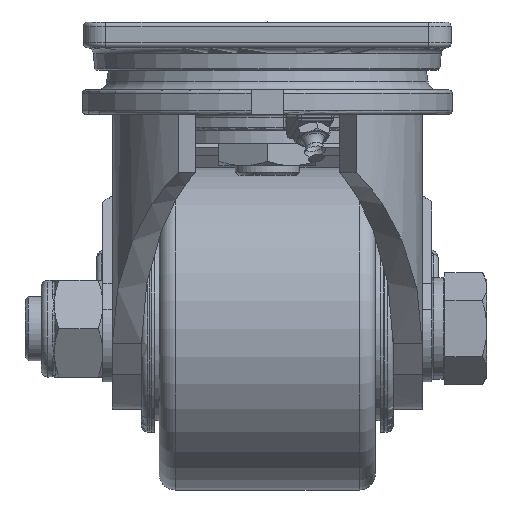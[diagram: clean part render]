
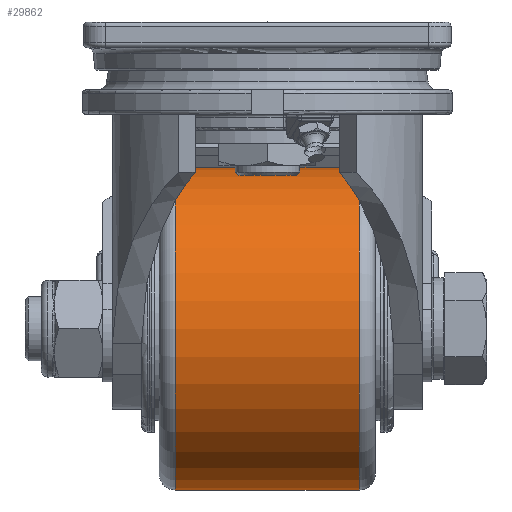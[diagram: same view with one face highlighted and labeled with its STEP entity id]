
A CAD part, left-side view. The second image highlights one B-rep face of the part: STEP entity #29862.
In plain terms, the highlighted cylindrical face has radius 50 mm (diameter 100 mm), a full revolution.
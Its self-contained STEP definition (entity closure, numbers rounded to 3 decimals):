
#2630=LINE('',#42541,#4909);
#4909=VECTOR('',#34640,50.);
#7127=CYLINDRICAL_SURFACE('',#31762,50.);
#7618=FACE_OUTER_BOUND('',#9439,.T.);
#9439=EDGE_LOOP('',(#20546,#20547,#20548,#20549,#20550,#20551));
#11398=CIRCLE('',#31758,50.);
#11399=CIRCLE('',#31759,50.);
#11402=CIRCLE('',#31763,50.);
#11403=CIRCLE('',#31764,50.);
#12712=VERTEX_POINT('',#42529);
#12713=VERTEX_POINT('',#42530);
#12715=VERTEX_POINT('',#42537);
#12716=VERTEX_POINT('',#42538);
#15748=EDGE_CURVE('',#12712,#12713,#11398,.T.);
#15749=EDGE_CURVE('',#12713,#12712,#11399,.T.);
#15752=EDGE_CURVE('',#12715,#12716,#11402,.T.);
#15753=EDGE_CURVE('',#12716,#12715,#11403,.T.);
#15754=EDGE_CURVE('',#12716,#12712,#2630,.T.);
#20546=ORIENTED_EDGE('',*,*,#15752,.F.);
#20547=ORIENTED_EDGE('',*,*,#15753,.F.);
#20548=ORIENTED_EDGE('',*,*,#15754,.T.);
#20549=ORIENTED_EDGE('',*,*,#15748,.T.);
#20550=ORIENTED_EDGE('',*,*,#15749,.T.);
#20551=ORIENTED_EDGE('',*,*,#15754,.F.);
#29862=ADVANCED_FACE('',(#7618),#7127,.T.);
#31758=AXIS2_PLACEMENT_3D('',#42531,#34626,#34627);
#31759=AXIS2_PLACEMENT_3D('',#42532,#34628,#34629);
#31762=AXIS2_PLACEMENT_3D('',#42536,#34634,#34635);
#31763=AXIS2_PLACEMENT_3D('',#42539,#34636,#34637);
#31764=AXIS2_PLACEMENT_3D('',#42540,#34638,#34639);
#34626=DIRECTION('center_axis',(0.,1.,0.));
#34627=DIRECTION('ref_axis',(1.,0.,0.));
#34628=DIRECTION('center_axis',(0.,1.,0.));
#34629=DIRECTION('ref_axis',(1.,0.,0.));
#34634=DIRECTION('center_axis',(0.,1.,0.));
#34635=DIRECTION('ref_axis',(0.,0.,-1.));
#34636=DIRECTION('center_axis',(0.,1.,0.));
#34637=DIRECTION('ref_axis',(1.,0.,0.));
#34638=DIRECTION('center_axis',(0.,1.,0.));
#34639=DIRECTION('ref_axis',(1.,0.,0.));
#34640=DIRECTION('',(0.,-1.,0.));
#42529=CARTESIAN_POINT('',(37.134,-28.5,-15.));
#42530=CARTESIAN_POINT('',(37.134,-28.5,-115.));
#42531=CARTESIAN_POINT('Origin',(37.134,-28.5,-65.));
#42532=CARTESIAN_POINT('Origin',(37.134,-28.5,-65.));
#42536=CARTESIAN_POINT('Origin',(37.134,0.,
-65.));
#42537=CARTESIAN_POINT('',(37.134,28.5,-115.));
#42538=CARTESIAN_POINT('',(37.134,28.5,-15.));
#42539=CARTESIAN_POINT('Origin',(37.134,28.5,-65.));
#42540=CARTESIAN_POINT('Origin',(37.134,28.5,-65.));
#42541=CARTESIAN_POINT('',(37.134,0.,-15.));
